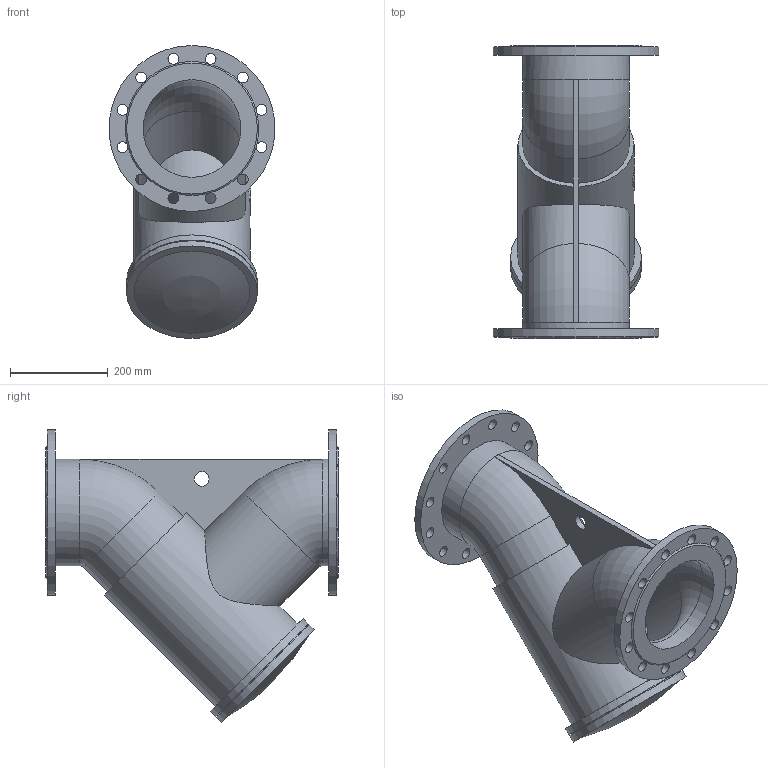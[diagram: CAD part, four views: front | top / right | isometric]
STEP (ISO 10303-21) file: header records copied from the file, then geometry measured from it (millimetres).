
FILE_DESCRIPTION(('STEP AP203'), '1');
FILE_NAME('Ôèëüòð ñåò÷àòûé ôëàíöåâûé 021Y.Z DN200 PN16', '', ('UNSPECIFIED'), ('UNSPECIFIED'), 'ASCON STEP Converter 1.6', 'ASCON Math Kernel', '');
FILE_SCHEMA(('CONFIG_CONTROL_DESIGN'));
Length unit declared in the file: millimetre
Bounding box: 340 x 600 x 600 mm (x, y, z)
Volume: 21514960.2 mm3; surface area: 1334054.2 mm2
Topology: 1 solids, 1 shells, 83 faces, 267 edges, 174 vertices
Faces by surface type: cylinder 47, plane 29, torus 4, cone 2, sphere 1
Full cylindrical faces by diameter (mm): 22 x24, 30 x1, 200 x4, 218 x2, 238 x1, 256 x1, 268 x2, 340 x2
Entity records: 5820 total; most frequent: CARTESIAN_POINT 2775, DIRECTION 505, ORIENTED_EDGE 448, AXIS2_PLACEMENT_3D 232, EDGE_CURVE 224, VERTEX_POINT 173, EDGE_LOOP 163, CIRCLE 148
